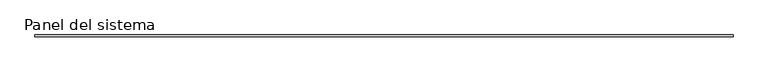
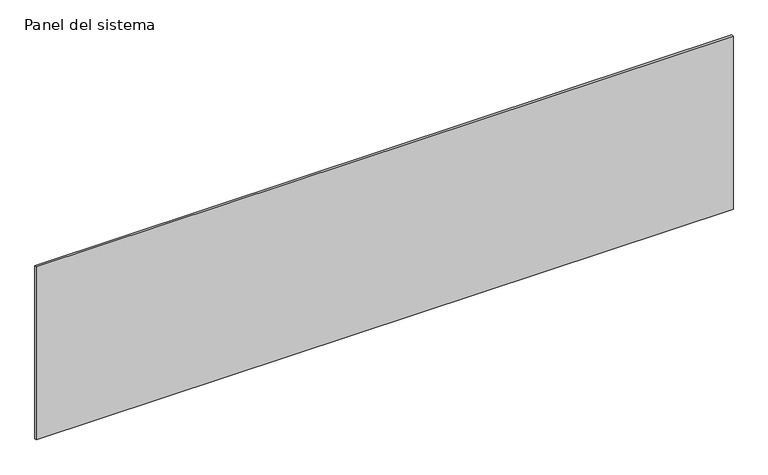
"""IFC4 building model written with IfcOpenShell, lengths in millimetres: plate geometry, Panel del sistema : Barnadal cristal."""

import ifcopenshell
import ifcopenshell.guid

model = None  # the IFC model being written
_history = None  # IfcOwnerHistory: only IFC2X3 demands one
_inside = {}  # id of a spatial element -> (the spatial element, [elements in it])
_under = {}  # id of a project, library or spatial element -> (it, [spatial elements below it])
_declared = {}  # id of a project -> (the project, [libraries it declares])
_typed = {}  # id of a type object -> (the type object, [elements of that type])
_made_of = {}  # id of a material, layer set ... -> (it, [elements and type objects made of it])


def new_model(schema):
    """Start an empty IFC model of exactly this schema.

    Asked for "IFC4X3", IfcOpenShell would pick the latest addendum, in which some entities
    have other attributes; the version numbers below select the first issue.
    IFC2X3 requires an IfcOwnerHistory on every rooted entity: one is made here for all.
    """
    global model, _history
    if schema == "IFC4X3":
        model = ifcopenshell.file(schema_version=(4, 3, 0, 0))
    else:
        model = ifcopenshell.file(schema=schema)
    _inside.clear()
    _under.clear()
    _declared.clear()
    _typed.clear()
    _made_of.clear()
    _history = None
    if model.schema == "IFC2X3":
        org = make("IfcOrganization", Name="unknown")
        user = make(
            "IfcPersonAndOrganization",
            ThePerson=make("IfcPerson", FamilyName="unknown"),
            TheOrganization=org,
        )
        app = make(
            "IfcApplication",
            ApplicationDeveloper=org,
            Version="unknown",
            ApplicationFullName="unknown",
            ApplicationIdentifier="unknown",
        )
        _history = make(
            "IfcOwnerHistory",
            OwningUser=user,
            OwningApplication=app,
            ChangeAction="ADDED",
            CreationDate=0,
        )
    return model


def make(cls, **values):
    """One entity of the class cls with the attributes given. An attribute that is None is left unset."""
    return model.create_entity(
        cls, **{name: value for name, value in values.items() if value is not None}
    )


def rooted(cls, **values):
    """An entity with a GlobalId (a new one), such as an element, a storey or a relation."""
    return make(cls, GlobalId=ifcopenshell.guid.new(), OwnerHistory=_history, **values)


def si_unit(unit_type, name, prefix=None):
    """IfcSIUnit, for example si_unit("LENGTHUNIT", "METRE", prefix="MILLI")."""
    return make("IfcSIUnit", UnitType=unit_type, Prefix=prefix, Name=name)


def assignment(units):
    """IfcUnitAssignment: the units of a project."""
    return None if units is None else make("IfcUnitAssignment", Units=units)


def point(xyz):
    """IfcCartesianPoint."""
    return None if xyz is None else make("IfcCartesianPoint", Coordinates=xyz)


def direction(xyz):
    """IfcDirection."""
    return None if xyz is None else make("IfcDirection", DirectionRatios=xyz)


def frame(location, z_axis=None, x_axis=None):
    """IfcAxis2Placement3D, a coordinate frame: its origin and axes. An axis left out is left unset."""
    return make(
        "IfcAxis2Placement3D",
        Location=point(location),
        Axis=direction(z_axis),
        RefDirection=direction(x_axis),
    )


def origin():
    """The frame at (0, 0, 0) with its axes left unset."""
    return frame((0.0, 0.0, 0.0))


def origin_with_axes():
    """The frame at (0, 0, 0) with the z axis (0, 0, 1) and the x axis (1, 0, 0) written out."""
    return frame((0.0, 0.0, 0.0), z_axis=(0.0, 0.0, 1.0), x_axis=(1.0, 0.0, 0.0))


def place(relative_to, where):
    """IfcLocalPlacement: puts the frame where relative to a parent placement (None: the world)."""
    return make(
        "IfcLocalPlacement", PlacementRelTo=relative_to, RelativePlacement=where
    )


def context(
    kind, dimensions, precision=None, world=None, true_north=None, identifier=None
):
    """IfcGeometricRepresentationContext, for example the 3D "Model" context."""
    return make(
        "IfcGeometricRepresentationContext",
        ContextIdentifier=identifier,
        ContextType=kind,
        CoordinateSpaceDimension=dimensions,
        Precision=precision,
        WorldCoordinateSystem=world,
        TrueNorth=true_north,
    )


def project(units=None, contexts=None):
    """IfcProject with its units and contexts."""
    return rooted(
        "IfcProject",
        Name="project",
        RepresentationContexts=contexts,
        UnitsInContext=assignment(units),
    )


def spatial(cls, under=None, at=None, **own):
    """A site, building, storey or space (cls), placed at a placement, below another one or the project."""
    s = rooted(cls, ObjectPlacement=at, **own)
    if under is not None:
        _under.setdefault(under.id(), (under, []))[1].append(s)
    return s


def polyline(points):
    """IfcPolyline through the points."""
    return make("IfcPolyline", Points=[point(p) for p in points])


def outline(outer, holes=None, kind="AREA"):
    """IfcArbitraryClosedProfileDef: a profile drawn as a closed curve; with holes, ...WithVoids."""
    if holes is None:
        return make("IfcArbitraryClosedProfileDef", ProfileType=kind, OuterCurve=outer)
    return make(
        "IfcArbitraryProfileDefWithVoids",
        ProfileType=kind,
        OuterCurve=outer,
        InnerCurves=holes,
    )


def extrude(swept, where, along, depth):
    """IfcExtrudedAreaSolid: the profile swept, set in the frame where, extruded along a direction by depth."""
    return make(
        "IfcExtrudedAreaSolid",
        SweptArea=swept,
        Position=where,
        ExtrudedDirection=direction(along),
        Depth=depth,
    )


def shape(context_of_items, identifier, shape_type, items):
    """IfcShapeRepresentation: the items that make up one representation, for example the "Body"."""
    return make(
        "IfcShapeRepresentation",
        ContextOfItems=context_of_items,
        RepresentationIdentifier=identifier,
        RepresentationType=shape_type,
        Items=items,
    )


def source(mapping_origin, context_of_items, identifier, shape_type, items):
    """IfcRepresentationMap: a shape defined once, which mapped items show again and again."""
    return make(
        "IfcRepresentationMap",
        MappingOrigin=mapping_origin,
        MappedRepresentation=shape(context_of_items, identifier, shape_type, items),
    )


def transform(
    local_origin,
    x_axis=None,
    y_axis=None,
    z_axis=None,
    scale=None,
    scale2=None,
    scale3=None,
    uniform=True,
):
    """IfcCartesianTransformationOperator3D, or its non-uniform kind. x_axis, y_axis, z_axis: its Axis1, 2, 3."""
    if uniform:
        return make(
            "IfcCartesianTransformationOperator3D",
            Axis1=direction(x_axis),
            Axis2=direction(y_axis),
            LocalOrigin=point(local_origin),
            Scale=scale,
            Axis3=direction(z_axis),
        )
    return make(
        "IfcCartesianTransformationOperator3DnonUniform",
        Axis1=direction(x_axis),
        Axis2=direction(y_axis),
        LocalOrigin=point(local_origin),
        Scale=scale,
        Axis3=direction(z_axis),
        Scale2=scale2,
        Scale3=scale3,
    )


def mapped(mapping_source, mapping_target):
    """IfcMappedItem: shows the shape of a source again, moved by a transform."""
    return make(
        "IfcMappedItem", MappingSource=mapping_source, MappingTarget=mapping_target
    )


def made_of(thing, what):
    """Note that an element or type object is made of a material, layer set ...; save() writes the relation."""
    if what is not None:
        _made_of.setdefault(what.id(), (what, []))[1].append(thing)
    return thing


def element(
    cls,
    number,
    at=None,
    inside=None,
    cuts=None,
    type_object=None,
    material=None,
    context=None,
    identifier="Body",
    shape_type=None,
    held_by="IfcProductDefinitionShape",
    body=None,
    shapes=None,
    **own,
):
    """One element of the class cls, such as IfcWall. Its Tag is "e" and its number.

    at: its placement. inside: the storey or other place that contains it. cuts: it is an
    opening in that element (IfcRelVoidsElement). A single representation is given by context,
    identifier, shape_type and body (its items); several are given by shapes. held_by: the class
    of the entity that holds the representations. save() writes the other relations.
    """
    e = rooted(cls, Tag="e%d" % number, ObjectPlacement=at, **own)
    if body is not None:
        shapes = [shape(context, identifier, shape_type, body)]
    if shapes is not None:
        e.Representation = make(held_by, Representations=shapes)
    if inside is not None:
        _inside.setdefault(inside.id(), (inside, []))[1].append(e)
    if cuts is not None:
        rooted(
            "IfcRelVoidsElement", RelatingBuildingElement=cuts, RelatedOpeningElement=e
        )
    if type_object is not None:
        _typed.setdefault(type_object.id(), (type_object, []))[1].append(e)
    return made_of(e, material)


def aggregate(whole, parts):
    """IfcRelAggregates: a whole, such as a stair, and the parts it consists of."""
    return rooted("IfcRelAggregates", RelatingObject=whole, RelatedObjects=parts)


def save(model, path):
    """Write the relations noted so far, then the file.

    IfcRelAggregates (storeys below a building ...), IfcRelContainedInSpatialStructure (elements
    in a storey), IfcRelDefinesByType, IfcRelAssociatesMaterial and IfcRelDeclares: one each for
    every whole, place, type object, material and project.
    """
    for whole, parts in _under.values():
        aggregate(whole, parts)
    for where, things in _inside.values():
        rooted(
            "IfcRelContainedInSpatialStructure",
            RelatedElements=things,
            RelatingStructure=where,
        )
    for kind, things in _typed.values():
        rooted("IfcRelDefinesByType", RelatedObjects=things, RelatingType=kind)
    for what, things in _made_of.values():
        rooted("IfcRelAssociatesMaterial", RelatedObjects=things, RelatingMaterial=what)
    for by, libraries in _declared.values():
        rooted("IfcRelDeclares", RelatingContext=by, RelatedDefinitions=libraries)
    model.write(path)


def panel_del_sistema_3edf12d6(model_context):
    return source(origin(), model_context, "Body", "SweptSolid", [
        extrude(outline(polyline([(1810.0226196, -5.0), (-1810.0226196, -5.0), (-1810.0226196, 5.0), (1810.0226196, 5.0), (1810.0226196, -5.0)])), origin_with_axes(), (0.0, 0.0, 1.0), 950.0),
    ])


if __name__ == "__main__":
    model = new_model("IFC4")
    model_context = context("Model", 3, world=origin())
    ifc_project = project(units=[si_unit("LENGTHUNIT", "METRE", prefix="MILLI")], contexts=[model_context])
    site = spatial("IfcSite", under=ifc_project)
    building = spatial("IfcBuilding", under=site)
    placement = place(None, origin())
    panel_del_sistema_shape = panel_del_sistema_3edf12d6(model_context)
    element("IfcPlate", 1, ObjectType="Panel del sistema : Barnadal cristal", at=placement, inside=building, context=model_context, shape_type="MappedRepresentation", body=[
        mapped(panel_del_sistema_shape, transform((0.0, 0.0, 0.0), x_axis=(1.0, 0.0, 0.0), y_axis=(0.0, 1.0, 0.0), z_axis=(0.0, 0.0, 1.0))),
    ])
    save(model, "model.ifc")
